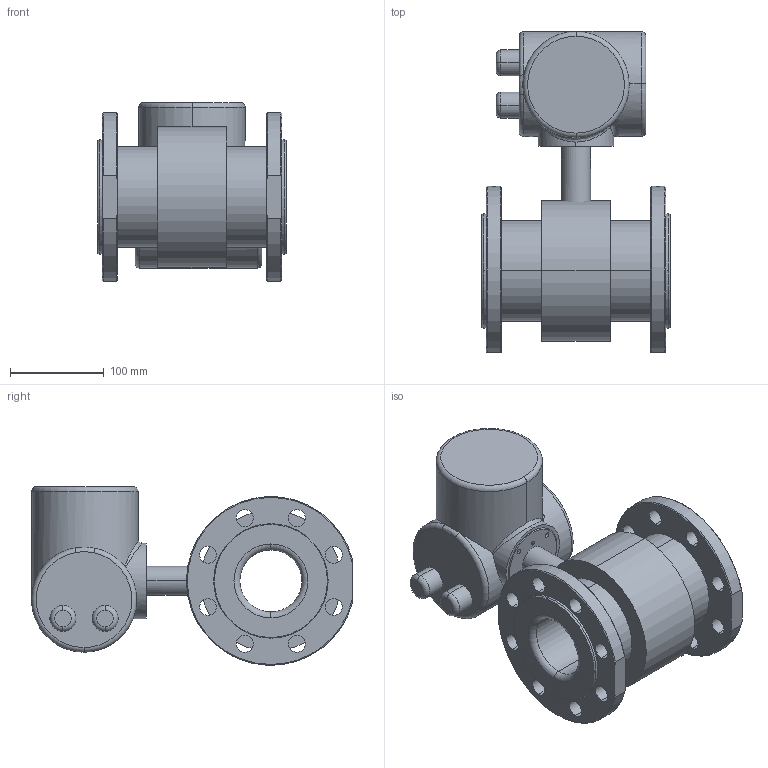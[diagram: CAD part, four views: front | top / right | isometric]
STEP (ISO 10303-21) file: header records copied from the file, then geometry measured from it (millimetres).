
FILE_DESCRIPTION (( 'STEP AP203' ), '1' );
FILE_NAME ('Ðàñõîäîìåð-ñ÷åò÷èê ýëåêòðîìàãíèòíûé ÏÈÒÅÐÔËÎÓ Ò3 - 65 Ex.STEP', '2022-06-24T08:13:57', ( '' ), ( '' ), 'SwSTEP 2.0', 'SolidWorks 2016', '' );
FILE_SCHEMA (( 'CONFIG_CONTROL_DESIGN' ));
Length unit declared in the file: millimetre
Products named in the file (1): Ðàñõîäîìåð-ñ÷åò÷èê ýëåêòðîìàãíèòíûé ÏÈÒÅÐÔËÎÓ Ò3 - 65 Ex
Bounding box: 200.6 x 342.15 x 190.31 mm (x, y, z)
Volume: 4377763.3 mm3; surface area: 353818.4 mm2
Topology: 5 solids, 5 shells, 248 faces, 609 edges, 382 vertices
Faces by surface type: cylinder 121, cone 64, plane 44, torus 14, bspline 4, sphere 1
Entity records: 10343 total; most frequent: CARTESIAN_POINT 4274, DIRECTION 1310, ORIENTED_EDGE 1210, EDGE_CURVE 605, AXIS2_PLACEMENT_3D 558, VERTEX_POINT 382, CIRCLE 313, EDGE_LOOP 311
